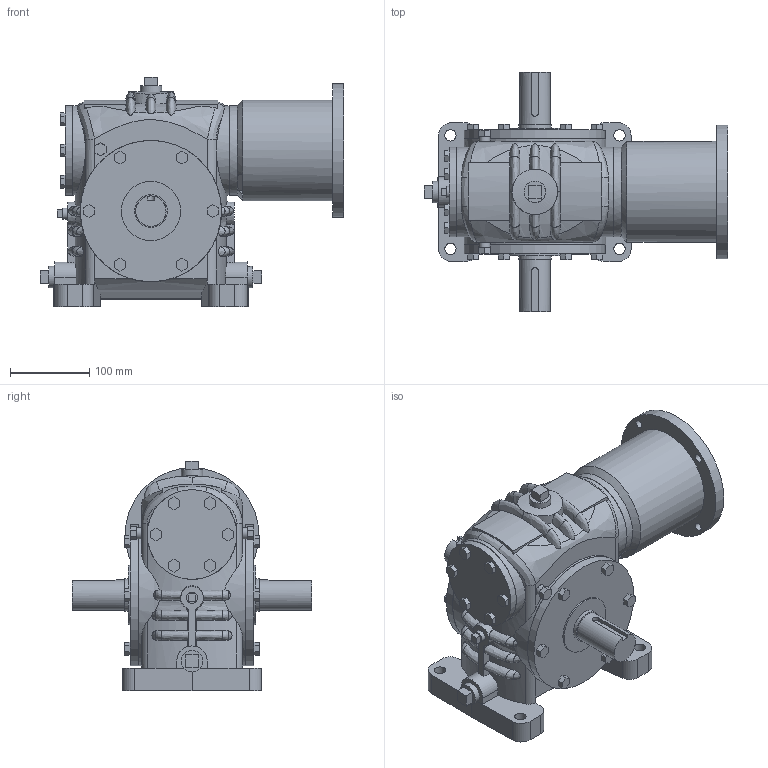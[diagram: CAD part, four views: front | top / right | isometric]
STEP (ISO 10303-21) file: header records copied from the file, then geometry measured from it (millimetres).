
FILE_DESCRIPTION(/* description */ ('Unknown'),/* implementation_level */ '2;1');
FILE_NAME(/* name */ 'HO-30-3--BNG010',/* time_stamp */ '2024-11-21T09:22:24-05:00',/* author */ ('Unknown'),/* organization */ ('Unknown'),/* preprocessor_version */ 'ST-DEVELOPER v19.4',/* originating_system */ 'Solid Edge',/* authorisation */ 'Unknown');
FILE_SCHEMA (('AUTOMOTIVE_DESIGN {1 0 10303 214 3 1 1}'));
Length unit declared in the file: millimetre
Products named in the file (5): HO-30-3--BNG010; 30-1-CP; 30-OUTS; 30-MTR45-56C; 30-WCAP
Assembly tree (5 placements, depth 2):
  HO-30-3--BNG010
    30-1-CP
    30-OUTS  x2
    30-MTR45-56C
    30-WCAP
Bounding box: 382.38 x 301.6 x 289.18 mm (x, y, z)
Volume: 7305767.5 mm3; surface area: 616499.8 mm2
Topology: 5 solids, 5 shells, 500 faces, 1275 edges, 853 vertices
Faces by surface type: plane 320, cylinder 115, bspline 58, cone 7
Full cylindrical faces by diameter (mm): 0.254 x9, 6.35 x1, 9.525 x7, 10.319 x4, 14.122 x6, 14.224 x3, 14.287 x4, 25.387 x1, 26.924 x3, 26.987 x1, 38.087 x2, 41.123 x2, 57.15 x1, 65.088 x1, 74.497 x2, 76.2 x1, 76.708 x1, 111.252 x1, 112.712 x1, 112.776 x3, 114.3 x1, 114.338 x1, 127 x1, 168.148 x1, 177.673 x2, 177.8 x2
Entity records: 17394 total; most frequent: CARTESIAN_POINT 6324, ORIENTED_EDGE 2082, DIRECTION 1771, EDGE_CURVE 1041, VERTEX_POINT 730, AXIS2_PLACEMENT_3D 595, FACE_BOUND 583, LINE 581
